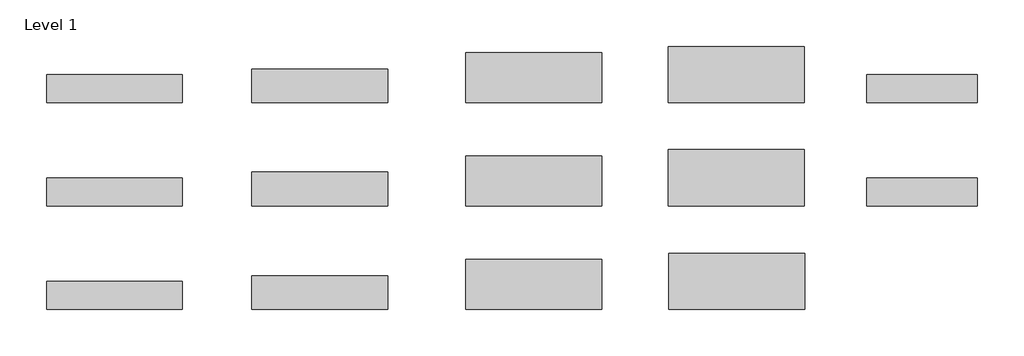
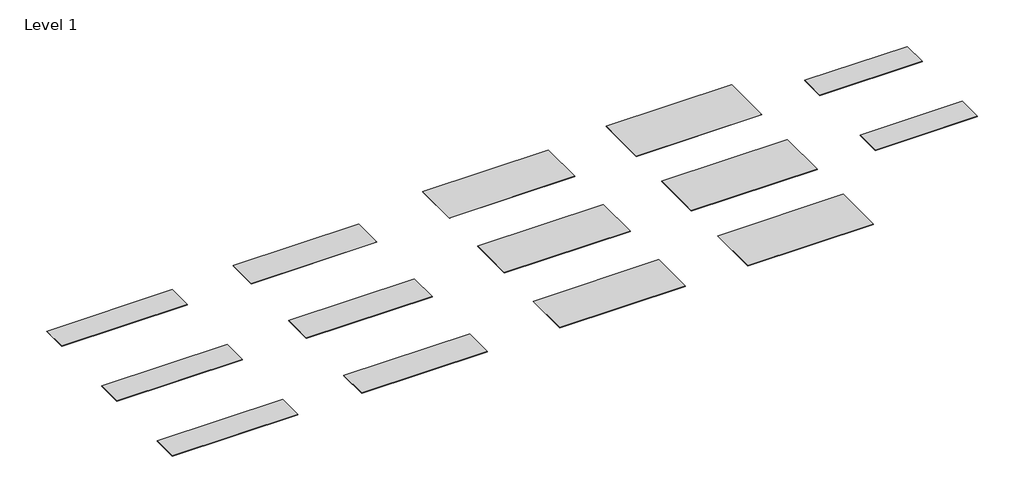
# One storey: 14 proxies.
"""IFC4 building model written with IfcOpenShell, lengths in millimetres."""

from ifc_helpers import new_model, si_unit, origin, place, context, project, spatial, transform, mapped, element, save
from components import w001_ice_queen_12mm_1350x3680mm_c2ce3097, w001_ice_queen_12mm_1520x3680mm_bc4f7f2a, w001_ice_queen_12mm_760x3680_7f56e2ab, w001_ice_queen_12mm_910x3680mm_ebb0e17e, w003_shadow_queen_20mm_760x3000_a6e596b7

model = new_model("IFC4")

# Units and contexts
model_context = context("Model", 3, world=origin())
ifc_project = project(units=[si_unit("LENGTHUNIT", "METRE", prefix="MILLI")], contexts=[model_context])

# Site, building, storey
site = spatial("IfcSite", under=ifc_project)
building = spatial("IfcBuilding", under=site)
storey = spatial("IfcBuildingStorey", under=building, Name="Level 1", Elevation=0.0)

# Proxies
placement = place(None, origin())
w001_ice_queen_12mm_1350x3680mm_shape = w001_ice_queen_12mm_1350x3680mm_c2ce3097(model_context)
element("IfcBuildingElementProxy", 1, Name="Kitchen_Counter-Tops_Indoor-Material_HIMACS_Lucia : W001_Ice-Queen_12mm_1350x3680mm", ObjectType="Kitchen_Counter-Tops_Indoor-Material_HIMACS_Lucia : W001_Ice-Queen_12mm_1350x3680mm", at=placement, inside=storey, context=model_context, shape_type="MappedRepresentation", body=[
    mapped(w001_ice_queen_12mm_1350x3680mm_shape, transform((-9704.6107119, -1004.2184866, 0.0), x_axis=(1.0, 0.0, 0.0), y_axis=(0.0, 1.0, 0.0), z_axis=(0.0, 0.0, 1.0))),
])
w001_ice_queen_12mm_1520x3680mm_shape = w001_ice_queen_12mm_1520x3680mm_bc4f7f2a(model_context)
element("IfcBuildingElementProxy", 2, Name="Kitchen_Counter-Tops_Indoor-Material_HIMACS_Lucia : W001_Ice-Queen_12mm_1520x3680mm", ObjectType="Kitchen_Counter-Tops_Indoor-Material_HIMACS_Lucia : W001_Ice-Queen_12mm_1520x3680mm", at=placement, inside=storey, context=model_context, shape_type="MappedRepresentation", body=[
    mapped(w001_ice_queen_12mm_1520x3680mm_shape, transform((-4204.6107119, -919.2184866, 0.0), x_axis=(1.0, 0.0, 0.0), y_axis=(0.0, 1.0, 0.0), z_axis=(0.0, 0.0, 1.0))),
])
w001_ice_queen_12mm_760x3680_shape = w001_ice_queen_12mm_760x3680_7f56e2ab(model_context)
element("IfcBuildingElementProxy", 3, Name="Kitchen_Counter-Tops_Indoor-Material_HIMACS_Lucia : W001_Ice-Queen_12mm_760x3680", ObjectType="Kitchen_Counter-Tops_Indoor-Material_HIMACS_Lucia : W001_Ice-Queen_12mm_760x3680", at=placement, inside=storey, context=model_context, shape_type="MappedRepresentation", body=[
    mapped(w001_ice_queen_12mm_760x3680_shape, transform((-21064.6107119, -1299.2184866, 0.0), x_axis=(1.0, 0.0, 0.0), y_axis=(0.0, 1.0, 0.0), z_axis=(0.0, 0.0, 1.0))),
])
w001_ice_queen_12mm_910x3680mm_shape = w001_ice_queen_12mm_910x3680mm_ebb0e17e(model_context)
element("IfcBuildingElementProxy", 4, Name="Kitchen_Counter-Tops_Indoor-Material_HIMACS_Lucia : W001_Ice-Queen_12mm_910x3680mm", ObjectType="Kitchen_Counter-Tops_Indoor-Material_HIMACS_Lucia : W001_Ice-Queen_12mm_910x3680mm", at=placement, inside=storey, context=model_context, shape_type="MappedRepresentation", body=[
    mapped(w001_ice_queen_12mm_910x3680mm_shape, transform((-15504.6107119, -1224.2184866, 0.0), x_axis=(1.0, 0.0, 0.0), y_axis=(0.0, 1.0, 0.0), z_axis=(0.0, 0.0, 1.0))),
])
element("IfcBuildingElementProxy", 5, Name="Kitchen_Counter-Tops_Indoor-Material_HIMACS_Lucia : W003_Shadow-Queen_12mm_1350x3680mm", ObjectType="Kitchen_Counter-Tops_Indoor-Material_HIMACS_Lucia : W003_Shadow-Queen_12mm_1350x3680mm", at=placement, inside=storey, context=model_context, shape_type="MappedRepresentation", body=[
    mapped(w001_ice_queen_12mm_1350x3680mm_shape, transform((-9704.6107119, 4608.130828, 0.0), x_axis=(1.0, 0.0, 0.0), y_axis=(0.0, 1.0, 0.0), z_axis=(0.0, 0.0, 1.0))),
])
element("IfcBuildingElementProxy", 6, Name="Kitchen_Counter-Tops_Indoor-Material_HIMACS_Lucia : W003_Shadow-Queen_12mm_1520x3680mm", ObjectType="Kitchen_Counter-Tops_Indoor-Material_HIMACS_Lucia : W003_Shadow-Queen_12mm_1520x3680mm", at=placement, inside=storey, context=model_context, shape_type="MappedRepresentation", body=[
    mapped(w001_ice_queen_12mm_1520x3680mm_shape, transform((-4224.6107119, 4693.130828, 0.0), x_axis=(1.0, 0.0, 0.0), y_axis=(0.0, 1.0, 0.0), z_axis=(0.0, 0.0, 1.0))),
])
element("IfcBuildingElementProxy", 7, Name="Kitchen_Counter-Tops_Indoor-Material_HIMACS_Lucia : W003_Shadow-Queen_12mm_760x3680", ObjectType="Kitchen_Counter-Tops_Indoor-Material_HIMACS_Lucia : W003_Shadow-Queen_12mm_760x3680", at=placement, inside=storey, context=model_context, shape_type="MappedRepresentation", body=[
    mapped(w001_ice_queen_12mm_760x3680_shape, transform((-21064.6107119, 4313.130828, 0.0), x_axis=(1.0, 0.0, 0.0), y_axis=(0.0, 1.0, 0.0), z_axis=(0.0, 0.0, 1.0))),
])
element("IfcBuildingElementProxy", 8, Name="Kitchen_Counter-Tops_Indoor-Material_HIMACS_Lucia : W003_Shadow-Queen_12mm_910x3680mm", ObjectType="Kitchen_Counter-Tops_Indoor-Material_HIMACS_Lucia : W003_Shadow-Queen_12mm_910x3680mm", at=placement, inside=storey, context=model_context, shape_type="MappedRepresentation", body=[
    mapped(w001_ice_queen_12mm_910x3680mm_shape, transform((-15504.6107119, 4388.130828, 0.0), x_axis=(1.0, 0.0, 0.0), y_axis=(0.0, 1.0, 0.0), z_axis=(0.0, 0.0, 1.0))),
])
w003_shadow_queen_20mm_760x3000_shape = w003_shadow_queen_20mm_760x3000_a6e596b7(model_context)
element("IfcBuildingElementProxy", 9, Name="Kitchen_Counter-Tops_Indoor-Material_HIMACS_Lucia : W003_Shadow-Queen_20mm_760x3000", ObjectType="Kitchen_Counter-Tops_Indoor-Material_HIMACS_Lucia : W003_Shadow-Queen_20mm_760x3000", at=placement, inside=storey, context=model_context, shape_type="MappedRepresentation", body=[
    mapped(w003_shadow_queen_20mm_760x3000_shape, transform((814.2494074, 4313.130828, 0.0), x_axis=(1.0, 0.0, 0.0), y_axis=(0.0, 1.0, 0.0), z_axis=(0.0, 0.0, 1.0))),
])
element("IfcBuildingElementProxy", 10, Name="Kitchen_Counter-Tops_Indoor-Material_HIMACS_Lucia : W004_Star-Queen_12mm_1350x3680mm", ObjectType="Kitchen_Counter-Tops_Indoor-Material_HIMACS_Lucia : W004_Star-Queen_12mm_1350x3680mm", at=placement, inside=storey, context=model_context, shape_type="MappedRepresentation", body=[
    mapped(w001_ice_queen_12mm_1350x3680mm_shape, transform((-9704.6107119, 1806.67304, 0.0), x_axis=(1.0, 0.0, 0.0), y_axis=(0.0, 1.0, 0.0), z_axis=(0.0, 0.0, 1.0))),
])
element("IfcBuildingElementProxy", 11, Name="Kitchen_Counter-Tops_Indoor-Material_HIMACS_Lucia : W004_Star-Queen_12mm_1520x3680mm", ObjectType="Kitchen_Counter-Tops_Indoor-Material_HIMACS_Lucia : W004_Star-Queen_12mm_1520x3680mm", at=placement, inside=storey, context=model_context, shape_type="MappedRepresentation", body=[
    mapped(w001_ice_queen_12mm_1520x3680mm_shape, transform((-4224.6107119, 1891.67304, 0.0), x_axis=(1.0, 0.0, 0.0), y_axis=(0.0, 1.0, 0.0), z_axis=(0.0, 0.0, 1.0))),
])
element("IfcBuildingElementProxy", 12, Name="Kitchen_Counter-Tops_Indoor-Material_HIMACS_Lucia : W004_Star-Queen_12mm_760x3680", ObjectType="Kitchen_Counter-Tops_Indoor-Material_HIMACS_Lucia : W004_Star-Queen_12mm_760x3680", at=placement, inside=storey, context=model_context, shape_type="MappedRepresentation", body=[
    mapped(w001_ice_queen_12mm_760x3680_shape, transform((-21064.6107119, 1511.67304, 0.0), x_axis=(1.0, 0.0, 0.0), y_axis=(0.0, 1.0, 0.0), z_axis=(0.0, 0.0, 1.0))),
])
element("IfcBuildingElementProxy", 13, Name="Kitchen_Counter-Tops_Indoor-Material_HIMACS_Lucia : W004_Star-Queen_12mm_910x3680mm", ObjectType="Kitchen_Counter-Tops_Indoor-Material_HIMACS_Lucia : W004_Star-Queen_12mm_910x3680mm", at=placement, inside=storey, context=model_context, shape_type="MappedRepresentation", body=[
    mapped(w001_ice_queen_12mm_910x3680mm_shape, transform((-15504.6107119, 1586.67304, 0.0), x_axis=(1.0, 0.0, 0.0), y_axis=(0.0, 1.0, 0.0), z_axis=(0.0, 0.0, 1.0))),
])
element("IfcBuildingElementProxy", 14, Name="Kitchen_Counter-Tops_Indoor-Material_HIMACS_Lucia : W004_Star-Queen_20mm_760x3000mm", ObjectType="Kitchen_Counter-Tops_Indoor-Material_HIMACS_Lucia : W004_Star-Queen_20mm_760x3000mm", at=placement, inside=storey, context=model_context, shape_type="MappedRepresentation", body=[
    mapped(w003_shadow_queen_20mm_760x3000_shape, transform((814.2494074, 1511.67304, 0.0), x_axis=(1.0, 0.0, 0.0), y_axis=(0.0, 1.0, 0.0), z_axis=(0.0, 0.0, 1.0))),
])

save(model, "model.ifc")
